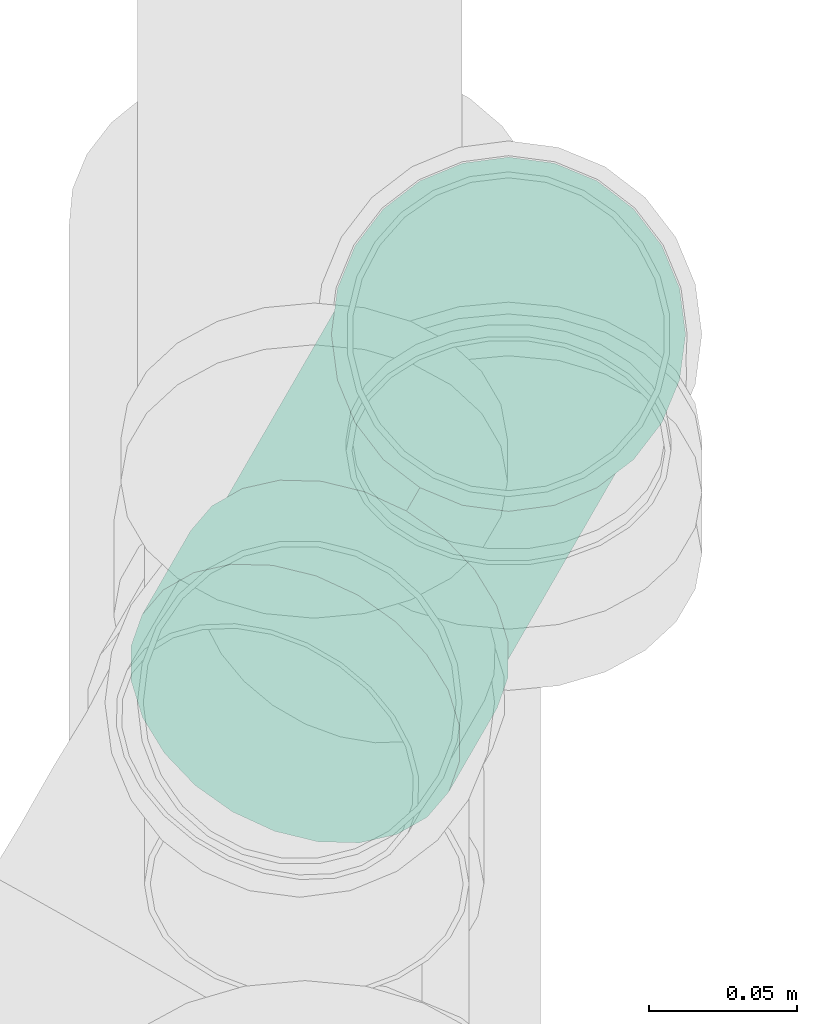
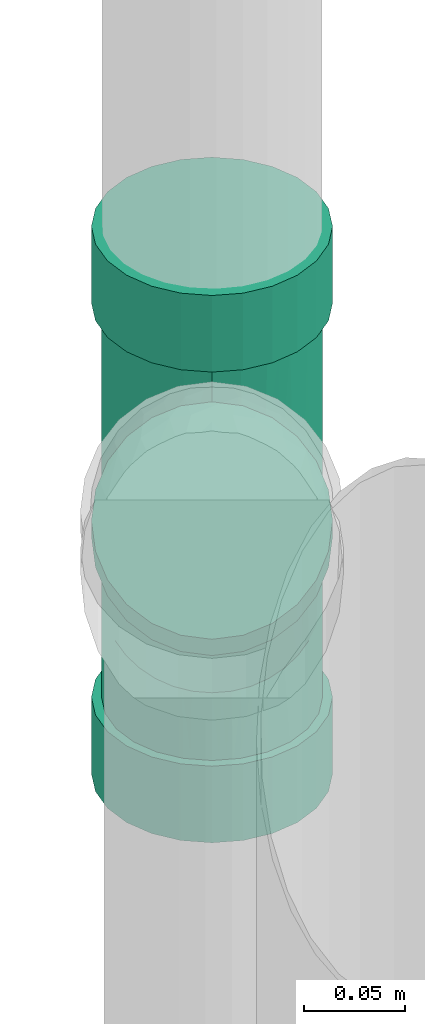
# One storey, part 54 of 78: 1 flow fitting.
"""IFC2X3 building model written with IfcOpenShell, lengths in millimetres."""

from ifc_helpers import new_model, entity, si_unit, converted_unit, derived_unit, direction, frame, origin_with_axes, place, context, subcontext, project, spatial, open_shell, surface_model, source, transform, mapped, type_object, element, save


model = new_model("IFC2X3")

# Units and contexts
model_context = context("Model", 3, precision=0.01, world=frame((0.0, 4.29681676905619e-09, 0.0)), true_north=direction((4.01073788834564e-13, 1.0)))
plan_context = context("Plan", 3, precision=0.01, world=frame((0.0, 4.29681676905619e-09, 0.0)), true_north=direction((4.01073788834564e-13, 1.0)))
body_context = subcontext(model_context, "Body", "Model", "MODEL_VIEW")
ifc_project = project(units=[converted_unit("PLANEANGLEUNIT", "DEGREE", entity("IfcPositiveLengthMeasure", 0.0174532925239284), si_unit("PLANEANGLEUNIT", "RADIAN"), dimensions=[0, 0, 0, 0, 0, 0, 0]), si_unit("AREAUNIT", "SQUARE_METRE"), si_unit("LENGTHUNIT", "METRE", prefix="MILLI"), si_unit("MASSUNIT", "GRAM", prefix="KILO"), si_unit("POWERUNIT", "WATT"), si_unit("PRESSUREUNIT", "PASCAL"), si_unit("FORCEUNIT", "NEWTON", prefix="KILO"), si_unit("ELECTRICVOLTAGEUNIT", "VOLT"), si_unit("ELECTRICCURRENTUNIT", "AMPERE"), si_unit("THERMODYNAMICTEMPERATUREUNIT", "DEGREE_CELSIUS"), si_unit("TIMEUNIT", "SECOND"), si_unit("VOLUMEUNIT", "CUBIC_METRE"), derived_unit("LINEARVELOCITYUNIT", [(si_unit("LENGTHUNIT", "METRE"), 1), (si_unit("TIMEUNIT", "SECOND"), -1)]), derived_unit("VOLUMETRICFLOWRATEUNIT", [(si_unit("VOLUMEUNIT", "CUBIC_METRE"), 1), (si_unit("TIMEUNIT", "SECOND"), -1)]), derived_unit("THERMALTRANSMITTANCEUNIT", [(si_unit("POWERUNIT", "WATT"), 1), (si_unit("THERMODYNAMICTEMPERATUREUNIT", "KELVIN"), -1), (si_unit("AREAUNIT", "SQUARE_METRE"), -1)]), derived_unit("SOUNDPRESSUREUNIT", [(si_unit("PRESSUREUNIT", "PASCAL"), 1)])], contexts=[model_context, plan_context])

# Site, building, storey
site_placement = place(None, frame((0.0, -4.29681676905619e-09, 0.0), z_axis=(0.0, 0.0, 1.0), x_axis=(1.0, 0.0, 0.0)))
site = spatial("IfcSite", under=ifc_project, at=site_placement, Name="ENGM", CompositionType="ELEMENT")
building_placement = place(site_placement, frame((0.0, 4.29681676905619e-09, 0.0), z_axis=(0.0, 0.0, 1.0), x_axis=(1.0, 0.0, 0.0)))
building = spatial("IfcBuilding", under=site, at=building_placement, Name="TH", CompositionType="ELEMENT")
storey_placement = place(building_placement, frame((0.0, 0.0, 205200.0), z_axis=(0.0, 0.0, 1.0), x_axis=(1.0, 0.0, 0.0)))
storey = spatial("IfcBuildingStorey", under=building, at=storey_placement, Name="Nivå D + 1,2 m", CompositionType="ELEMENT", Elevation=205200.0)

# Flow fitting
pipe_fitting_type = type_object("IfcPipeFittingType", Name="magi_sewer_tee_wye_NOR", PredefinedType="JUNCTION")
shared_shape = source(origin_with_axes(), body_context, "Body", "SurfaceModel", [
    surface_model("IfcShellBasedSurfaceModel", [(221.95942, 30.0, -51.96152), (221.95942, -42.42641, -42.42641), (221.95942, 15.52914, -57.95555), (221.95942, 51.96152, -30.0), (221.95942, 42.42641, -42.42641), (221.95942, 57.95555, -15.52914), (221.95942, 60.0, 0.0), (221.95942, 0.0, -60.0), (221.95942, -30.0, -51.96152), (221.95942, -15.52914, -57.95555), (221.95942, 57.95555, 15.52914), (221.95942, -51.96152, -30.0), (221.95942, -60.0, 0.0), (221.95942, -57.95555, -15.52914), (221.95942, 51.96152, 30.0), (221.95942, 42.42641, 42.42641), (221.95942, 15.52914, 57.95555), (221.95942, 0.0, 60.0), (221.95942, 30.0, 51.96152), (221.95942, -51.96152, 30.0), (221.95942, -57.95555, 15.52914), (221.95942, -30.0, 51.96152), (221.95942, -42.42641, 42.42641), (221.95942, -15.52914, 57.95555), (175.45942, 42.42641, 42.42641), (175.45942, 0.0, 60.0), (175.45942, 15.52914, 57.95555), (175.45942, 30.0, 51.96152), (175.45942, 51.96152, 30.0), (175.45942, 57.95555, 15.52914), (175.45942, -60.0, 0.0), (175.45942, -30.0, 51.96152), (175.45942, -51.96152, 30.0), (175.45942, -42.42641, 42.42641), (175.45942, -15.52914, 57.95555), (175.45942, -57.95555, 15.52914), (175.45942, -51.96152, -30.0), (175.45942, -42.42641, -42.42641), (175.45942, 57.95555, -15.52914), (175.45942, 42.42641, -42.42641), (175.45942, 51.96152, -30.0), (175.45942, 30.0, -51.96152), (175.45942, 15.52914, -57.95555), (175.45942, -57.95555, -15.52914), (175.45942, -30.0, -51.96152), (175.45942, 0.0, -60.0), (175.45942, -15.52914, -57.95555), (175.45942, 60.0, 0.0), (132.78175, -90.35534, -51.96152), (122.54931, -100.58778, -57.95555), (111.56854, -111.56854, -60.0), (70.58778, -152.5493, -15.52914), (70.58778, -152.5493, 15.52914), (141.56854, -81.56854, -42.42641), (148.31089, -74.8262, -30.0), (81.56854, -141.56854, -42.42641), (74.8262, -148.31089, -30.0), (90.35534, -132.78175, -51.96152), (100.58778, -122.54931, -57.95555), (69.14214, -153.99494, 0.0), (152.5493, -70.58778, -15.52914), (152.5493, -70.58778, 15.52914), (100.58778, -122.54931, 57.95555), (148.31089, -74.8262, 30.0), (122.54931, -100.58778, 57.95555), (132.78175, -90.35534, 51.96152), (141.56854, -81.56854, 42.42641), (81.56854, -141.56854, 42.42641), (90.35534, -132.78175, 51.96152), (74.8262, -148.31089, 30.0), (111.56854, -111.56854, 60.0), (153.99494, -69.14214, 0.0), (155.42978, -133.46824, -57.95555), (102.0226, -186.87542, 0.0), (144.449, -144.449, -60.0), (174.449, -114.44901, -42.42641), (165.66222, -123.2358, -51.96152), (181.19136, -107.70666, -30.0), (186.87542, -102.0226, 0.0), (123.2358, -165.66222, -51.96152), (103.46825, -185.42978, -15.52914), (114.44901, -174.449, -42.42641), (133.46824, -155.42978, -57.95555), (107.70666, -181.19136, -30.0), (185.42978, -103.46825, -15.52914), (185.42978, -103.46825, 15.52914), (181.19136, -107.70666, 30.0), (165.66222, -123.2358, 51.96152), (103.46825, -185.42978, 15.52914), (174.449, -114.44901, 42.42641), (155.42978, -133.46824, 57.95555), (107.70666, -181.19136, 30.0), (123.2358, -165.66222, 51.96152), (114.44901, -174.449, 42.42641), (144.449, -144.449, 60.0), (133.46824, -155.42978, 57.95555), (-110.39087, -30.0, -51.96152), (-110.39087, 42.42641, -42.42641), (-110.39087, -15.52914, -57.95555), (-110.39087, -51.96152, -30.0), (-110.39087, -42.42641, -42.42641), (-110.39087, -57.95555, -15.52914), (-110.39087, -60.0, 0.0), (-110.39087, 0.0, -60.0), (-110.39087, 30.0, -51.96152), (-110.39087, 15.52914, -57.95555), (-110.39087, -57.95555, 15.52914), (-110.39087, 51.96152, -30.0), (-110.39087, 60.0, 0.0), (-110.39087, 57.95555, -15.52914), (-110.39087, -51.96152, 30.0), (-110.39087, -42.42641, 42.42641), (-110.39087, -15.52914, 57.95555), (-110.39087, 0.0, 60.0), (-110.39087, -30.0, 51.96152), (-110.39087, 51.96152, 30.0), (-110.39087, 57.95555, 15.52914), (-110.39087, 30.0, 51.96152), (-110.39087, 42.42641, 42.42641), (-110.39087, 15.52914, 57.95555), (-63.89087, -42.42641, 42.42641), (-63.89087, 0.0, 60.0), (-63.89087, -15.52914, 57.95555), (-63.89087, -30.0, 51.96152), (-63.89087, -51.96152, 30.0), (-63.89087, -57.95555, 15.52914), (-63.89087, 60.0, 0.0), (-63.89087, 30.0, 51.96152), (-63.89087, 51.96152, 30.0), (-63.89087, 42.42641, 42.42641), (-63.89087, 15.52914, 57.95555), (-63.89087, 57.95555, 15.52914), (-63.89087, 51.96152, -30.0), (-63.89087, 42.42641, -42.42641), (-63.89087, -57.95555, -15.52914), (-63.89087, -42.42641, -42.42641), (-63.89087, -51.96152, -30.0), (-63.89087, -30.0, -51.96152), (-63.89087, -15.52914, -57.95555), (-63.89087, 57.95555, -15.52914), (-63.89087, 30.0, -51.96152), (-63.89087, 0.0, -60.0), (-63.89087, 15.52914, -57.95555), (-63.89087, -60.0, 0.0), (175.45942, 27.5, -47.63139), (175.45942, 0.0, -55.0), (175.45942, 14.23505, -53.12592), (175.45942, 47.63139, -27.5), (175.45942, 38.89087, -38.89087), (175.45942, -55.0, 0.0), (175.45942, -27.5, -47.63139), (175.45942, 53.12592, -14.23505), (175.45942, -14.23505, -53.12592), (175.45942, -47.63139, -27.5), (175.45942, -38.89087, -38.89087), (175.45942, -53.12592, -14.23505), (175.45942, -47.63139, 27.5), (175.45942, 55.0, 0.0), (175.45942, 47.63139, 27.5), (175.45942, 27.5, 47.63139), (175.45942, 38.89087, 38.89087), (175.45942, 14.23505, 53.12592), (175.45942, 0.0, 55.0), (175.45942, -53.12592, 14.23505), (175.45942, -27.5, 47.63139), (175.45942, -38.89087, 38.89087), (175.45942, -14.23505, 53.12592), (175.45942, 53.12592, 14.23505), (-63.89087, 0.0, 55.0), (-63.89087, 14.23505, 53.12592), (-63.89087, 27.5, 47.63139), (-63.89087, -47.63139, 27.5), (-63.89087, 27.5, -47.63139), (-63.89087, 47.63139, 27.5), (-63.89087, 38.89087, 38.89087), (-63.89087, -27.5, 47.63139), (-63.89087, -14.23505, 53.12592), (-63.89087, -38.89087, 38.89087), (-63.89087, -55.0, 0.0), (-63.89087, -53.12592, 14.23505), (-63.89087, -47.63139, -27.5), (-63.89087, 53.12592, -14.23505), (-63.89087, 53.12592, 14.23505), (-63.89087, 47.63139, -27.5), (-63.89087, -27.5, -47.63139), (-63.89087, 38.89087, -38.89087), (-63.89087, 0.0, -55.0), (-63.89087, 14.23505, -53.12592), (-63.89087, -38.89087, -38.89087), (-63.89087, -53.12592, -14.23505), (-63.89087, -14.23505, -53.12592), (-63.89087, 55.0, 0.0), (-21.85362, -52.75931, -14.7245), (-63.89087, -53.59444, -10.67629), (-20.41167, -49.27814, -23.9272), (-63.89087, -50.37866, -20.86752), (-63.89087, -49.00503, -24.18376), (-63.89087, -54.53148, -3.55876), (-63.89087, -54.06296, -7.11752), (-22.59407, -54.5469, -4.97144), (-22.40639, -54.0938, -9.94288), (-63.89087, -20.86752, -50.37866), (-7.5228, -18.16164, -51.91488), (-9.2876, -22.42225, -50.0044), (-19.52249, -47.13146, -28.34828), (-17.15512, -41.41614, -36.18983), (-63.89087, -43.26114, -33.19544), (-63.89087, -33.19544, -43.26114), (-11.0524, -26.68285, -48.09392), (130.20604, -53.93311, -7.58557), (175.45942, -54.06296, -7.11752), (-18.33881, -44.2738, -32.26906), (-15.7262, -37.9664, -39.50519), (-14.29727, -34.51667, -42.82055), (-21.30086, -51.42481, -19.50612), (-3.80709, -9.19114, -54.22659), (-63.89087, -7.11752, -54.06296), (-22.78175, -55.0, 0.0), (127.63033, -52.86621, -15.17114), (116.59177, -48.29389, -26.31919), (132.78175, -55.0, 0.0), (103.4667, -42.85731, -34.47102), (175.45942, -43.26114, -33.19544), (74.96104, -31.04988, -45.39719), (60.19874, -24.93514, -49.02284), (89.44888, -37.05094, -40.64761), (0.0, 0.0, -55.0), (30.22918, -12.52133, -53.55573), (15.12889, -6.26659, -54.64183), (45.26771, -18.7505, -51.70512), (-63.89087, -50.37866, 20.86752), (-21.30086, -51.42481, 19.50612), (-20.41167, -49.27814, 23.9272), (-22.59407, -54.5469, 4.97144), (-63.89087, -54.06296, 7.11752), (-63.89087, -54.53148, 3.55876), (-63.89087, -7.11752, 54.06296), (-3.80709, -9.19114, 54.22659), (0.0, 0.0, 55.0), (-7.5228, -18.16164, 51.91488), (-63.89087, -20.86752, 50.37866), (-11.0524, -26.68285, 48.09392), (-9.2876, -22.42225, 50.0044), (30.22918, -12.52133, 53.55573), (60.19874, -24.93514, 49.02284), (-63.89087, -33.19544, 43.26114), (-14.29727, -34.51667, 42.82055), (-19.52249, -47.13146, 28.34828), (-18.33881, -44.2738, 32.26906), (-63.89087, -43.26114, 33.19544), (-17.15512, -41.41614, 36.18983), (89.44888, -37.05094, 40.64761), (103.02033, -42.67242, 33.4834), (-15.7262, -37.9664, 39.50519), (-63.89087, -49.00503, 24.18376), (175.45942, -43.26114, 33.19544), (-21.85362, -52.75931, 14.7245), (-22.40639, -54.0938, 9.94288), (116.59177, -48.29389, 26.31919), (124.68676, -51.64695, 13.1596), (-63.89087, -53.59444, 10.67629), (121.63425, -101.50284, -53.12592), (84.06854, -139.06855, -38.89087), (111.56854, -111.56854, -55.0), (139.06855, -84.06854, -38.89087), (131.01398, -92.1231, -47.63139), (150.45941, -72.67767, 0.0), (145.24903, -77.88806, -27.5), (74.00285, -149.13424, -14.23505), (149.13424, -74.00285, 14.23505), (101.50284, -121.63425, -53.12592), (92.1231, -131.01398, -47.63139), (77.88806, -145.24903, -27.5), (77.88806, -145.24903, 27.5), (72.67767, -150.45941, 0.0), (149.13424, -74.00285, -14.23505), (139.06855, -84.06854, 38.89087), (145.24903, -77.88806, 27.5), (131.01398, -92.1231, 47.63139), (84.06854, -139.06855, 38.89087), (121.63425, -101.50284, 53.12592), (111.56854, -111.56854, 55.0), (74.00285, -149.13424, 14.23505), (92.1231, -131.01398, 47.63139), (101.50284, -121.63425, 53.12592), (149.79682, -73.34025, -7.11752), (142.15878, -80.9783, -33.19544)], [open_shell([[[0, 1, 2]], [[3, 0, 4]], [[5, 6, 0]], [[5, 0, 3]], [[1, 0, 6]], [[7, 8, 9]], [[8, 7, 1]], [[2, 1, 7]], [[1, 10, 11]], [[11, 12, 13]], [[10, 1, 6]], [[10, 14, 15]], [[12, 10, 15]], [[16, 17, 15]], [[16, 15, 18]], [[19, 15, 17]], [[12, 19, 20]], [[12, 15, 19]], [[19, 21, 22]], [[19, 17, 21]], [[23, 21, 17]], [[10, 12, 11]], [[24, 25, 26]], [[24, 26, 27]], [[24, 28, 29]], [[25, 24, 30]], [[30, 24, 29]], [[31, 32, 33]], [[31, 34, 25]], [[32, 30, 35]], [[31, 25, 32]], [[25, 30, 32]], [[29, 36, 30]], [[37, 29, 38]], [[39, 38, 40]], [[41, 42, 38]], [[41, 38, 39]], [[37, 38, 42]], [[37, 36, 29]], [[43, 30, 36]], [[44, 45, 46]], [[45, 44, 37]], [[45, 37, 42]], [[47, 38, 29]], [[43, 13, 30]], [[36, 11, 43]], [[8, 37, 44]], [[36, 37, 1]], [[9, 44, 46]], [[43, 11, 13]], [[13, 12, 30]], [[9, 8, 44]], [[1, 37, 8]], [[1, 11, 36]], [[7, 9, 46]], [[46, 45, 7]], [[2, 42, 41]], [[39, 0, 41]], [[3, 40, 38]], [[39, 40, 4]], [[5, 38, 47]], [[42, 2, 45]], [[41, 0, 2]], [[45, 2, 7]], [[39, 4, 0]], [[40, 3, 4]], [[5, 3, 38]], [[47, 6, 5]], [[29, 10, 47]], [[28, 14, 29]], [[18, 24, 27]], [[28, 24, 15]], [[16, 27, 26]], [[29, 14, 10]], [[10, 6, 47]], [[18, 27, 16]], [[15, 24, 18]], [[15, 14, 28]], [[16, 25, 17]], [[16, 26, 25]], [[23, 34, 31]], [[33, 21, 31]], [[19, 32, 35]], [[33, 32, 22]], [[20, 35, 30]], [[34, 23, 25]], [[31, 21, 23]], [[25, 23, 17]], [[33, 22, 21]], [[32, 19, 22]], [[20, 19, 35]], [[30, 12, 20]], [[48, 49, 50]], [[48, 50, 51]], [[48, 51, 52]], [[53, 48, 54]], [[48, 52, 54]], [[55, 56, 57]], [[50, 58, 57]], [[50, 57, 56]], [[56, 51, 50]], [[59, 52, 51]], [[60, 54, 61]], [[54, 62, 61]], [[63, 61, 64]], [[63, 64, 65]], [[66, 63, 65]], [[64, 61, 62]], [[67, 68, 69]], [[69, 54, 52]], [[68, 62, 69]], [[54, 69, 62]], [[62, 70, 64]], [[71, 60, 61]], [[72, 73, 74]], [[75, 72, 76]], [[73, 72, 77]], [[77, 72, 75]], [[78, 73, 77]], [[79, 80, 81]], [[79, 82, 74]], [[81, 80, 83]], [[80, 79, 73]], [[74, 73, 79]], [[77, 84, 78]], [[78, 85, 86]], [[78, 86, 87]], [[87, 88, 73]], [[87, 86, 89]], [[88, 87, 90]], [[91, 92, 93]], [[92, 91, 88]], [[92, 94, 95]], [[92, 88, 90]], [[90, 94, 92]], [[87, 73, 78]], [[88, 59, 73]], [[91, 52, 88]], [[67, 93, 92]], [[91, 93, 69]], [[68, 92, 95]], [[91, 69, 52]], [[52, 59, 88]], [[62, 94, 70]], [[62, 68, 95]], [[67, 92, 68]], [[67, 69, 93]], [[94, 62, 95]], [[65, 90, 87]], [[89, 66, 87]], [[61, 86, 85]], [[89, 86, 63]], [[71, 85, 78]], [[90, 64, 70]], [[90, 65, 64]], [[87, 66, 65]], [[89, 63, 66]], [[61, 63, 86]], [[85, 71, 61]], [[90, 70, 94]], [[84, 71, 78]], [[77, 60, 84]], [[53, 75, 76]], [[77, 75, 54]], [[48, 76, 72]], [[77, 54, 60]], [[60, 71, 84]], [[49, 74, 50]], [[49, 48, 72]], [[53, 76, 48]], [[53, 54, 75]], [[74, 49, 72]], [[57, 82, 79]], [[81, 55, 79]], [[51, 83, 80]], [[81, 83, 56]], [[59, 80, 73]], [[58, 50, 82]], [[58, 82, 57]], [[79, 55, 57]], [[81, 56, 55]], [[51, 56, 83]], [[80, 59, 51]], [[82, 50, 74]], [[96, 97, 98]], [[99, 96, 100]], [[101, 102, 96]], [[101, 96, 99]], [[97, 96, 102]], [[103, 104, 105]], [[104, 103, 97]], [[98, 97, 103]], [[97, 106, 107]], [[107, 108, 109]], [[106, 97, 102]], [[106, 110, 111]], [[108, 106, 111]], [[112, 113, 111]], [[112, 111, 114]], [[115, 111, 113]], [[108, 115, 116]], [[108, 111, 115]], [[115, 117, 118]], [[115, 113, 117]], [[119, 117, 113]], [[106, 108, 107]], [[120, 121, 122]], [[120, 122, 123]], [[120, 124, 125]], [[121, 120, 126]], [[126, 120, 125]], [[127, 128, 129]], [[127, 130, 121]], [[128, 126, 131]], [[127, 121, 128]], [[121, 126, 128]], [[125, 132, 126]], [[133, 125, 134]], [[135, 134, 136]], [[137, 138, 134]], [[137, 134, 135]], [[133, 134, 138]], [[133, 132, 125]], [[139, 126, 132]], [[140, 141, 142]], [[141, 140, 133]], [[141, 133, 138]], [[143, 134, 125]], [[139, 109, 126]], [[132, 107, 139]], [[104, 133, 140]], [[132, 133, 97]], [[105, 140, 142]], [[139, 107, 109]], [[109, 108, 126]], [[105, 104, 140]], [[97, 133, 104]], [[97, 107, 132]], [[103, 105, 142]], [[142, 141, 103]], [[98, 138, 137]], [[135, 96, 137]], [[99, 136, 134]], [[135, 136, 100]], [[101, 134, 143]], [[138, 98, 141]], [[137, 96, 98]], [[141, 98, 103]], [[135, 100, 96]], [[136, 99, 100]], [[101, 99, 134]], [[143, 102, 101]], [[125, 106, 143]], [[124, 110, 125]], [[114, 120, 123]], [[124, 120, 111]], [[112, 123, 122]], [[125, 110, 106]], [[106, 102, 143]], [[114, 123, 112]], [[111, 120, 114]], [[111, 110, 124]], [[112, 121, 113]], [[112, 122, 121]], [[119, 130, 127]], [[129, 117, 127]], [[115, 128, 131]], [[129, 128, 118]], [[116, 131, 126]], [[130, 119, 121]], [[127, 117, 119]], [[121, 119, 113]], [[129, 118, 117]], [[128, 115, 118]], [[116, 115, 131]], [[126, 108, 116]], [[144, 145, 146]], [[147, 144, 148]], [[149, 150, 144]], [[151, 144, 147]], [[144, 151, 149]], [[145, 150, 152]], [[145, 144, 150]], [[150, 153, 154]], [[153, 150, 149]], [[149, 155, 153]], [[156, 151, 157]], [[156, 157, 158]], [[159, 158, 160]], [[159, 161, 162]], [[158, 159, 156]], [[162, 156, 159]], [[149, 156, 163]], [[151, 156, 149]], [[162, 164, 165]], [[165, 156, 162]], [[164, 162, 166]], [[157, 167, 158]], [[168, 169, 170]], [[171, 168, 170]], [[172, 171, 170]], [[173, 170, 174]], [[173, 172, 170]], [[168, 175, 176]], [[168, 177, 175]], [[171, 178, 179]], [[177, 168, 171]], [[171, 180, 178]], [[181, 173, 182]], [[181, 183, 173]], [[173, 183, 172]], [[171, 172, 184]], [[172, 183, 185]], [[186, 172, 187]], [[180, 184, 188]], [[189, 178, 180]], [[184, 186, 190]], [[180, 171, 184]], [[186, 184, 172]], [[182, 191, 181]], [[189, 192, 193]], [[194, 195, 196]], [[197, 198, 199]], [[200, 193, 192]], [[201, 202, 203]], [[204, 194, 180]], [[205, 206, 188]], [[207, 184, 208]], [[209, 155, 210]], [[180, 206, 211]], [[212, 205, 188]], [[180, 194, 196]], [[208, 213, 207]], [[194, 214, 195]], [[215, 190, 216]], [[206, 205, 211]], [[217, 197, 199]], [[218, 219, 153]], [[209, 218, 155]], [[210, 220, 209]], [[155, 218, 153]], [[221, 222, 219]], [[184, 203, 208]], [[200, 198, 193]], [[150, 223, 224]], [[225, 223, 150]], [[225, 154, 221]], [[154, 225, 150]], [[222, 153, 219]], [[180, 211, 204]], [[198, 200, 199]], [[213, 188, 207]], [[203, 184, 201]], [[186, 226, 216]], [[188, 213, 212]], [[215, 202, 190]], [[215, 216, 226]], [[221, 154, 222]], [[186, 187, 226]], [[214, 189, 195]], [[148, 185, 183]], [[147, 183, 181]], [[146, 187, 172]], [[144, 172, 185]], [[146, 226, 187]], [[151, 181, 191]], [[189, 214, 192]], [[197, 217, 178]], [[227, 228, 152]], [[229, 227, 152]], [[229, 152, 224]], [[152, 228, 145]], [[224, 152, 150]], [[226, 145, 228]], [[220, 210, 149]], [[146, 145, 226]], [[144, 146, 172]], [[144, 185, 148]], [[147, 148, 183]], [[151, 147, 181]], [[191, 157, 151]], [[202, 201, 190]], [[174, 158, 173]], [[230, 231, 232]], [[233, 234, 235]], [[173, 158, 182]], [[167, 191, 182]], [[160, 174, 170]], [[236, 176, 237]], [[169, 168, 238]], [[237, 176, 239]], [[239, 176, 240]], [[170, 169, 159]], [[241, 242, 175]], [[236, 238, 168]], [[175, 242, 240]], [[160, 158, 174]], [[217, 235, 178]], [[159, 160, 170]], [[167, 182, 158]], [[157, 191, 167]], [[238, 236, 237]], [[238, 243, 162]], [[238, 162, 161]], [[162, 243, 166]], [[166, 243, 244]], [[161, 159, 169]], [[238, 161, 169]], [[241, 245, 246]], [[247, 248, 171]], [[245, 177, 246]], [[249, 248, 250]], [[165, 251, 252]], [[246, 177, 253]], [[232, 254, 230]], [[233, 235, 217]], [[252, 156, 255]], [[256, 231, 179]], [[257, 234, 233]], [[163, 258, 259]], [[232, 171, 254]], [[179, 231, 230]], [[171, 248, 249]], [[171, 232, 247]], [[241, 175, 245]], [[244, 251, 164]], [[257, 260, 234]], [[164, 251, 165]], [[244, 164, 166]], [[260, 256, 179]], [[250, 177, 249]], [[165, 252, 255]], [[156, 252, 258]], [[177, 250, 253]], [[256, 260, 257]], [[258, 163, 156]], [[259, 149, 163]], [[259, 220, 149]], [[239, 240, 242]], [[261, 262, 263]], [[264, 261, 265]], [[266, 264, 267]], [[268, 261, 264]], [[264, 269, 268]], [[270, 262, 271]], [[270, 263, 262]], [[262, 268, 272]], [[261, 268, 262]], [[268, 273, 274]], [[266, 267, 275]], [[273, 268, 269]], [[276, 269, 277]], [[269, 278, 279]], [[278, 269, 276]], [[280, 281, 278]], [[269, 279, 273]], [[282, 274, 273]], [[283, 281, 284]], [[281, 283, 279]], [[281, 279, 278]], [[264, 266, 269]], [[257, 217, 274]], [[282, 257, 274]], [[279, 283, 246]], [[250, 273, 279]], [[231, 282, 273]], [[239, 283, 284]], [[231, 257, 282]], [[247, 231, 273]], [[246, 250, 279]], [[239, 241, 283]], [[246, 283, 241]], [[247, 273, 250]], [[266, 259, 269]], [[284, 237, 239]], [[243, 281, 280]], [[278, 244, 280]], [[277, 269, 258]], [[258, 276, 277]], [[251, 278, 276]], [[259, 266, 220]], [[281, 238, 237]], [[281, 243, 238]], [[259, 258, 269]], [[243, 280, 244]], [[258, 251, 276]], [[278, 251, 244]], [[281, 237, 284]], [[275, 209, 285]], [[219, 286, 221]], [[266, 285, 220]], [[275, 267, 218]], [[264, 265, 225]], [[221, 286, 264]], [[218, 267, 219]], [[224, 265, 261]], [[219, 267, 286]], [[223, 225, 265]], [[221, 264, 225]], [[229, 224, 261]], [[263, 228, 227]], [[229, 261, 227]], [[223, 265, 224]], [[275, 218, 209]], [[227, 261, 263]], [[271, 202, 270]], [[270, 215, 263]], [[213, 271, 262]], [[200, 268, 274]], [[262, 272, 205]], [[268, 214, 272]], [[274, 217, 200]], [[208, 202, 271]], [[215, 226, 263]], [[202, 215, 270]], [[220, 285, 209]], [[200, 214, 268]], [[205, 213, 262]], [[204, 205, 272]], [[214, 204, 272]], [[208, 271, 213]], [[263, 226, 228]]])]),
])
flow_fitting_placement = place(storey_placement, frame((895907.76271, 480148.00219, 7353.61451000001), z_axis=(-0.866025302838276, 0.500000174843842, 0.0), x_axis=(0.0, 0.0, 1.0)))
element("IfcFlowFitting", 1, at=flow_fitting_placement, inside=storey, type_object=pipe_fitting_type, Name="magi_sewer_tee_wye_NOR", context=body_context, shape_type="MappedRepresentation", body=[
    mapped(shared_shape, transform((0.0, 0.0, 0.0), scale=1.0)),
])

save(model, "model.ifc")
